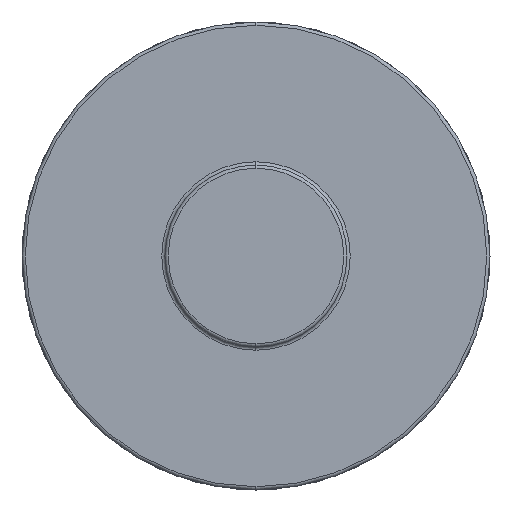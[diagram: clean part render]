
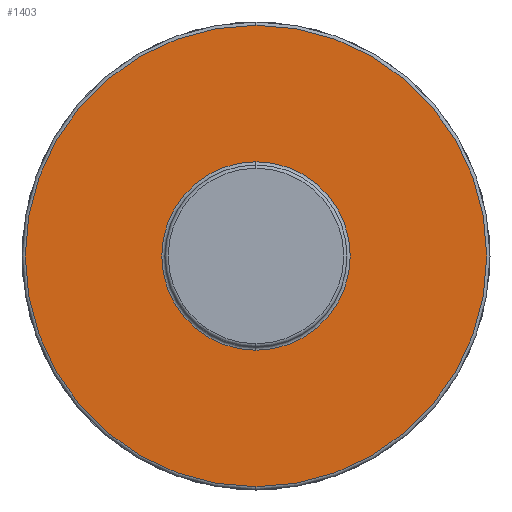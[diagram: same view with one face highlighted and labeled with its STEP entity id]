
A CAD part, left-side view. The second image highlights one B-rep face of the part: STEP entity #1403.
In plain terms, the highlighted planar face has unit normal (-1, 0, 0).
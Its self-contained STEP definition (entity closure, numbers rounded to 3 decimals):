
#37 = EDGE_CURVE ( 'NONE', #2920, #2589, #4972, .T. ) ;
#53 = AXIS2_PLACEMENT_3D ( 'NONE', #3219, #4356, #60 ) ;
#60 = DIRECTION ( 'NONE',  ( 0., 0., -1. ) ) ;
#92 = VERTEX_POINT ( 'NONE', #3002 ) ;
#117 = DIRECTION ( 'NONE',  ( 1., 0., 0. ) ) ;
#154 = AXIS2_PLACEMENT_3D ( 'NONE', #3646, #117, #2505 ) ;
#321 = FACE_OUTER_BOUND ( 'NONE', #3445, .T. ) ;
#449 = CARTESIAN_POINT ( 'NONE',  ( 0., 0., 14.5 ) ) ;
#1011 = VERTEX_POINT ( 'NONE', #449 ) ;
#1018 = CIRCLE ( 'NONE', #3890, 35.5 ) ;
#1040 = DIRECTION ( 'NONE',  ( 0., 0., -1. ) ) ;
#1076 = DIRECTION ( 'NONE',  ( -1., 0., 0. ) ) ;
#1081 = ORIENTED_EDGE ( 'NONE', *, *, #2549, .T. ) ;
#1129 = AXIS2_PLACEMENT_3D ( 'NONE', #4976, #1076, #2249 ) ;
#1321 = CARTESIAN_POINT ( 'NONE',  ( 0., 0., 0. ) ) ;
#1403 = ADVANCED_FACE ( 'NONE', ( #3819, #321 ), #1871, .F. ) ;
#1592 = EDGE_CURVE ( 'NONE', #2589, #2920, #1018, .T. ) ;
#1606 = EDGE_LOOP ( 'NONE', ( #2050, #1081 ) ) ;
#1871 = PLANE ( 'NONE',  #53 ) ;
#1968 = DIRECTION ( 'NONE',  ( 1., 0., 0. ) ) ;
#2050 = ORIENTED_EDGE ( 'NONE', *, *, #4450, .T. ) ;
#2148 = ORIENTED_EDGE ( 'NONE', *, *, #37, .T. ) ;
#2163 = DIRECTION ( 'NONE',  ( -1., 0., 0. ) ) ;
#2249 = DIRECTION ( 'NONE',  ( 0., 0., -1. ) ) ;
#2505 = DIRECTION ( 'NONE',  ( 0., 0., -1. ) ) ;
#2549 = EDGE_CURVE ( 'NONE', #1011, #92, #4219, .T. ) ;
#2589 = VERTEX_POINT ( 'NONE', #3928 ) ;
#2598 = CIRCLE ( 'NONE', #154, 14.5 ) ;
#2920 = VERTEX_POINT ( 'NONE', #4565 ) ;
#3002 = CARTESIAN_POINT ( 'NONE',  ( 0., 0., -14.5 ) ) ;
#3048 = DIRECTION ( 'NONE',  ( 0., 0., -1. ) ) ;
#3219 = CARTESIAN_POINT ( 'NONE',  ( 0., 0., 0. ) ) ;
#3445 = EDGE_LOOP ( 'NONE', ( #4174, #2148 ) ) ;
#3646 = CARTESIAN_POINT ( 'NONE',  ( 0., 0., 0. ) ) ;
#3819 = FACE_BOUND ( 'NONE', #1606, .T. ) ;
#3847 = CARTESIAN_POINT ( 'NONE',  ( 0., 0., 0. ) ) ;
#3890 = AXIS2_PLACEMENT_3D ( 'NONE', #1321, #2163, #1040 ) ;
#3928 = CARTESIAN_POINT ( 'NONE',  ( 0., 0., -35.5 ) ) ;
#4174 = ORIENTED_EDGE ( 'NONE', *, *, #1592, .T. ) ;
#4219 = CIRCLE ( 'NONE', #5031, 14.5 ) ;
#4356 = DIRECTION ( 'NONE',  ( 1., 0., 0. ) ) ;
#4450 = EDGE_CURVE ( 'NONE', #92, #1011, #2598, .T. ) ;
#4565 = CARTESIAN_POINT ( 'NONE',  ( 0., 0., 35.5 ) ) ;
#4972 = CIRCLE ( 'NONE', #1129, 35.5 ) ;
#4976 = CARTESIAN_POINT ( 'NONE',  ( 0., 0., 0. ) ) ;
#5031 = AXIS2_PLACEMENT_3D ( 'NONE', #3847, #1968, #3048 ) ;
